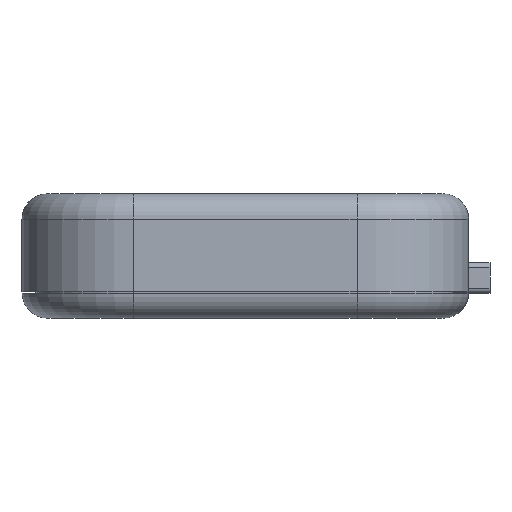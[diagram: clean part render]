
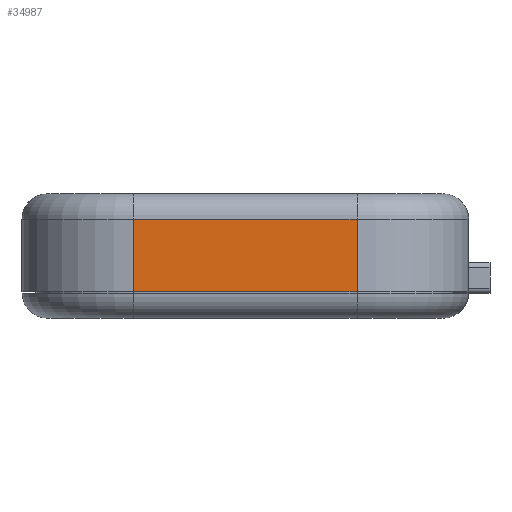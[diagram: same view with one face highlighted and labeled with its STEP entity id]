
A CAD part, front view. The second image highlights one B-rep face of the part: STEP entity #34987.
In plain terms, the highlighted planar face has unit normal (0, -1, 0).
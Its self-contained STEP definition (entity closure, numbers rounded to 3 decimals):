
#32179 = CYLINDRICAL_SURFACE('',#32180,5.);
#32180 = AXIS2_PLACEMENT_3D('',#32181,#32182,#32183);
#32181 = CARTESIAN_POINT('',(22.,-63.,6.75));
#32182 = DIRECTION('',(-1.,-0.,-0.));
#32183 = DIRECTION('',(0.,-1.,0.));
#32900 = VERTEX_POINT('',#32901);
#32901 = CARTESIAN_POINT('',(-22.,-68.,6.75));
#32916 = CYLINDRICAL_SURFACE('',#32917,22.);
#32917 = AXIS2_PLACEMENT_3D('',#32918,#32919,#32920);
#32918 = CARTESIAN_POINT('',(-22.,-46.,-12.75));
#32919 = DIRECTION('',(0.,0.,1.));
#32920 = DIRECTION('',(-1.,-0.,0.));
#32954 = VERTEX_POINT('',#32955);
#32955 = CARTESIAN_POINT('',(22.,-68.,6.75));
#32979 = EDGE_CURVE('',#32954,#32900,#32980,.T.);
#32980 = SURFACE_CURVE('',#32981,(#32985,#32992),.PCURVE_S1.);
#32981 = LINE('',#32982,#32983);
#32982 = CARTESIAN_POINT('',(22.,-68.,6.75));
#32983 = VECTOR('',#32984,1.);
#32984 = DIRECTION('',(-1.,-0.,-0.));
#32985 = PCURVE('',#32179,#32986);
#32986 = DEFINITIONAL_REPRESENTATION('',(#32987),#32991);
#32987 = LINE('',#32988,#32989);
#32988 = CARTESIAN_POINT('',(0.,0.));
#32989 = VECTOR('',#32990,1.);
#32990 = DIRECTION('',(0.,1.));
#32991 = ( GEOMETRIC_REPRESENTATION_CONTEXT(2) 
PARAMETRIC_REPRESENTATION_CONTEXT() REPRESENTATION_CONTEXT('2D SPACE',''
  ) );
#32992 = PCURVE('',#32993,#32998);
#32993 = PLANE('',#32994);
#32994 = AXIS2_PLACEMENT_3D('',#32995,#32996,#32997);
#32995 = CARTESIAN_POINT('',(-44.,-68.,-12.75));
#32996 = DIRECTION('',(0.,1.,0.));
#32997 = DIRECTION('',(0.,-0.,1.));
#32998 = DEFINITIONAL_REPRESENTATION('',(#32999),#33003);
#32999 = LINE('',#33000,#33001);
#33000 = CARTESIAN_POINT('',(19.5,66.));
#33001 = VECTOR('',#33002,1.);
#33002 = DIRECTION('',(0.,-1.));
#33003 = ( GEOMETRIC_REPRESENTATION_CONTEXT(2) 
PARAMETRIC_REPRESENTATION_CONTEXT() REPRESENTATION_CONTEXT('2D SPACE',''
  ) );
#33027 = CYLINDRICAL_SURFACE('',#33028,22.);
#33028 = AXIS2_PLACEMENT_3D('',#33029,#33030,#33031);
#33029 = CARTESIAN_POINT('',(22.,-46.,-12.75));
#33030 = DIRECTION('',(0.,0.,1.));
#33031 = DIRECTION('',(1.,0.,-0.));
#34475 = PLANE('',#34476);
#34476 = AXIS2_PLACEMENT_3D('',#34477,#34478,#34479);
#34477 = CARTESIAN_POINT('',(-90.,-110.,-7.5));
#34478 = DIRECTION('',(0.,0.,1.));
#34479 = DIRECTION('',(1.,0.,-0.));
#34943 = VERTEX_POINT('',#34944);
#34944 = CARTESIAN_POINT('',(-22.,-68.,-7.5));
#34966 = EDGE_CURVE('',#34943,#32900,#34967,.T.);
#34967 = SURFACE_CURVE('',#34968,(#34972,#34979),.PCURVE_S1.);
#34968 = LINE('',#34969,#34970);
#34969 = CARTESIAN_POINT('',(-22.,-68.,-12.75));
#34970 = VECTOR('',#34971,1.);
#34971 = DIRECTION('',(0.,0.,1.));
#34972 = PCURVE('',#32916,#34973);
#34973 = DEFINITIONAL_REPRESENTATION('',(#34974),#34978);
#34974 = LINE('',#34975,#34976);
#34975 = CARTESIAN_POINT('',(1.571,0.));
#34976 = VECTOR('',#34977,1.);
#34977 = DIRECTION('',(0.,1.));
#34978 = ( GEOMETRIC_REPRESENTATION_CONTEXT(2) 
PARAMETRIC_REPRESENTATION_CONTEXT() REPRESENTATION_CONTEXT('2D SPACE',''
  ) );
#34979 = PCURVE('',#32993,#34980);
#34980 = DEFINITIONAL_REPRESENTATION('',(#34981),#34985);
#34981 = LINE('',#34982,#34983);
#34982 = CARTESIAN_POINT('',(0.,22.));
#34983 = VECTOR('',#34984,1.);
#34984 = DIRECTION('',(1.,0.));
#34985 = ( GEOMETRIC_REPRESENTATION_CONTEXT(2) 
PARAMETRIC_REPRESENTATION_CONTEXT() REPRESENTATION_CONTEXT('2D SPACE',''
  ) );
#34987 = ADVANCED_FACE('',(#34988),#32993,.F.);
#34988 = FACE_BOUND('',#34989,.F.);
#34989 = EDGE_LOOP('',(#34990,#35013,#35014,#35015));
#34990 = ORIENTED_EDGE('',*,*,#34991,.F.);
#34991 = EDGE_CURVE('',#34943,#34992,#34994,.T.);
#34992 = VERTEX_POINT('',#34993);
#34993 = CARTESIAN_POINT('',(22.,-68.,-7.5));
#34994 = SURFACE_CURVE('',#34995,(#34999,#35006),.PCURVE_S1.);
#34995 = LINE('',#34996,#34997);
#34996 = CARTESIAN_POINT('',(-67.,-68.,-7.5));
#34997 = VECTOR('',#34998,1.);
#34998 = DIRECTION('',(1.,0.,0.));
#34999 = PCURVE('',#32993,#35000);
#35000 = DEFINITIONAL_REPRESENTATION('',(#35001),#35005);
#35001 = LINE('',#35002,#35003);
#35002 = CARTESIAN_POINT('',(5.25,-23.));
#35003 = VECTOR('',#35004,1.);
#35004 = DIRECTION('',(0.,1.));
#35005 = ( GEOMETRIC_REPRESENTATION_CONTEXT(2) 
PARAMETRIC_REPRESENTATION_CONTEXT() REPRESENTATION_CONTEXT('2D SPACE',''
  ) );
#35006 = PCURVE('',#34475,#35007);
#35007 = DEFINITIONAL_REPRESENTATION('',(#35008),#35012);
#35008 = LINE('',#35009,#35010);
#35009 = CARTESIAN_POINT('',(23.,42.));
#35010 = VECTOR('',#35011,1.);
#35011 = DIRECTION('',(1.,0.));
#35012 = ( GEOMETRIC_REPRESENTATION_CONTEXT(2) 
PARAMETRIC_REPRESENTATION_CONTEXT() REPRESENTATION_CONTEXT('2D SPACE',''
  ) );
#35013 = ORIENTED_EDGE('',*,*,#34966,.T.);
#35014 = ORIENTED_EDGE('',*,*,#32979,.F.);
#35015 = ORIENTED_EDGE('',*,*,#35016,.F.);
#35016 = EDGE_CURVE('',#34992,#32954,#35017,.T.);
#35017 = SURFACE_CURVE('',#35018,(#35022,#35029),.PCURVE_S1.);
#35018 = LINE('',#35019,#35020);
#35019 = CARTESIAN_POINT('',(22.,-68.,-12.75));
#35020 = VECTOR('',#35021,1.);
#35021 = DIRECTION('',(0.,0.,1.));
#35022 = PCURVE('',#32993,#35023);
#35023 = DEFINITIONAL_REPRESENTATION('',(#35024),#35028);
#35024 = LINE('',#35025,#35026);
#35025 = CARTESIAN_POINT('',(0.,66.));
#35026 = VECTOR('',#35027,1.);
#35027 = DIRECTION('',(1.,0.));
#35028 = ( GEOMETRIC_REPRESENTATION_CONTEXT(2) 
PARAMETRIC_REPRESENTATION_CONTEXT() REPRESENTATION_CONTEXT('2D SPACE',''
  ) );
#35029 = PCURVE('',#33027,#35030);
#35030 = DEFINITIONAL_REPRESENTATION('',(#35031),#35035);
#35031 = LINE('',#35032,#35033);
#35032 = CARTESIAN_POINT('',(4.712,0.));
#35033 = VECTOR('',#35034,1.);
#35034 = DIRECTION('',(-0.,1.));
#35035 = ( GEOMETRIC_REPRESENTATION_CONTEXT(2) 
PARAMETRIC_REPRESENTATION_CONTEXT() REPRESENTATION_CONTEXT('2D SPACE',''
  ) );
